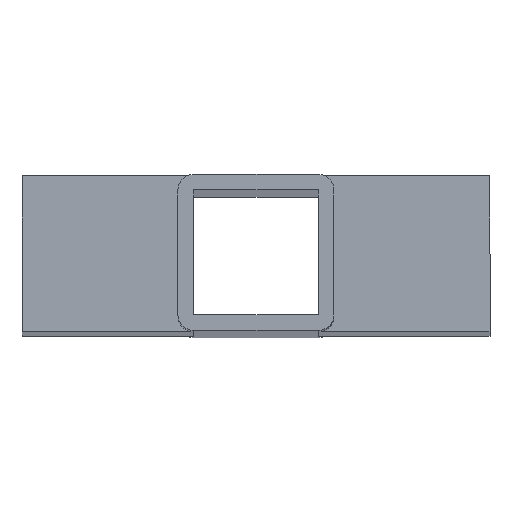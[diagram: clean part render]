
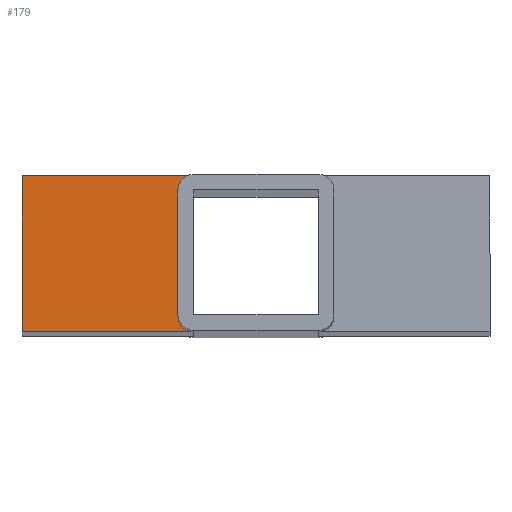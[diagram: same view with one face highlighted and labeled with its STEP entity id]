
A CAD part, top view. The second image highlights one B-rep face of the part: STEP entity #179.
In plain terms, the highlighted planar face has unit normal (0, 0, 1).
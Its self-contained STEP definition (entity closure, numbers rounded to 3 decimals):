
#8 = EDGE_CURVE ( 'NONE', #813, #674, #167, .T. ) ;
#21 = LINE ( 'NONE', #660, #1067 ) ;
#68 = EDGE_CURVE ( 'NONE', #395, #487, #1031, .T. ) ;
#91 = AXIS2_PLACEMENT_3D ( 'NONE', #781, #872, #302 ) ;
#107 = DIRECTION ( 'NONE',  ( 0., 0., 1. ) ) ;
#120 = DIRECTION ( 'NONE',  ( 0., -1., 0. ) ) ;
#138 = CARTESIAN_POINT ( 'NONE',  ( -15., 0., 250. ) ) ;
#167 = LINE ( 'NONE', #340, #1167 ) ;
#175 = CIRCLE ( 'NONE', #91, 3. ) ;
#179 = ADVANCED_FACE ( 'NONE', ( #1060 ), #1080, .T. ) ;
#184 = DIRECTION ( 'NONE',  ( 1., 0., 0. ) ) ;
#196 = CARTESIAN_POINT ( 'NONE',  ( -12., 15., 250. ) ) ;
#302 = DIRECTION ( 'NONE',  ( 1., 0., 0. ) ) ;
#340 = CARTESIAN_POINT ( 'NONE',  ( -45., 0., 250. ) ) ;
#395 = VERTEX_POINT ( 'NONE', #1025 ) ;
#481 = CARTESIAN_POINT ( 'NONE',  ( -12., 12., 250. ) ) ;
#487 = VERTEX_POINT ( 'NONE', #767 ) ;
#490 = EDGE_CURVE ( 'NONE', #1045, #395, #961, .T. ) ;
#541 = VECTOR ( 'NONE', #952, 1000. ) ;
#578 = CARTESIAN_POINT ( 'NONE',  ( 0., -15., 250. ) ) ;
#594 = VECTOR ( 'NONE', #120, 1000. ) ;
#601 = CARTESIAN_POINT ( 'NONE',  ( 0., 0., 250. ) ) ;
#623 = ORIENTED_EDGE ( 'NONE', *, *, #1077, .F. ) ;
#660 = CARTESIAN_POINT ( 'NONE',  ( 0., 15., 250. ) ) ;
#673 = ORIENTED_EDGE ( 'NONE', *, *, #1117, .F. ) ;
#674 = VERTEX_POINT ( 'NONE', #1087 ) ;
#685 = CARTESIAN_POINT ( 'NONE',  ( -12., -15., 250. ) ) ;
#715 = DIRECTION ( 'NONE',  ( 1., 0., 0. ) ) ;
#718 = AXIS2_PLACEMENT_3D ( 'NONE', #481, #107, #184 ) ;
#725 = ORIENTED_EDGE ( 'NONE', *, *, #490, .F. ) ;
#767 = CARTESIAN_POINT ( 'NONE',  ( -15., -12., 250. ) ) ;
#781 = CARTESIAN_POINT ( 'NONE',  ( -12., -12., 250. ) ) ;
#813 = VERTEX_POINT ( 'NONE', #915 ) ;
#826 = EDGE_CURVE ( 'NONE', #674, #1045, #21, .T. ) ;
#835 = DIRECTION ( 'NONE',  ( 1., 0., 0. ) ) ;
#853 = LINE ( 'NONE', #578, #541 ) ;
#865 = ORIENTED_EDGE ( 'NONE', *, *, #68, .F. ) ;
#872 = DIRECTION ( 'NONE',  ( 0., 0., 1. ) ) ;
#915 = CARTESIAN_POINT ( 'NONE',  ( -45., -15., 250. ) ) ;
#952 = DIRECTION ( 'NONE',  ( -1., 0., 0. ) ) ;
#961 = CIRCLE ( 'NONE', #718, 3. ) ;
#975 = VERTEX_POINT ( 'NONE', #685 ) ;
#997 = DIRECTION ( 'NONE',  ( 0., 1., 0. ) ) ;
#1019 = AXIS2_PLACEMENT_3D ( 'NONE', #601, #1094, #715 ) ;
#1025 = CARTESIAN_POINT ( 'NONE',  ( -15., 12., 250. ) ) ;
#1031 = LINE ( 'NONE', #138, #594 ) ;
#1045 = VERTEX_POINT ( 'NONE', #196 ) ;
#1060 = FACE_OUTER_BOUND ( 'NONE', #1139, .T. ) ;
#1067 = VECTOR ( 'NONE', #835, 1000. ) ;
#1077 = EDGE_CURVE ( 'NONE', #487, #975, #175, .T. ) ;
#1080 = PLANE ( 'NONE',  #1019 ) ;
#1087 = CARTESIAN_POINT ( 'NONE',  ( -45., 15., 250. ) ) ;
#1089 = ORIENTED_EDGE ( 'NONE', *, *, #826, .F. ) ;
#1094 = DIRECTION ( 'NONE',  ( 0., 0., 1. ) ) ;
#1117 = EDGE_CURVE ( 'NONE', #975, #813, #853, .T. ) ;
#1139 = EDGE_LOOP ( 'NONE', ( #725, #1089, #1180, #673, #623, #865 ) ) ;
#1167 = VECTOR ( 'NONE', #997, 1000. ) ;
#1180 = ORIENTED_EDGE ( 'NONE', *, *, #8, .F. ) ;
